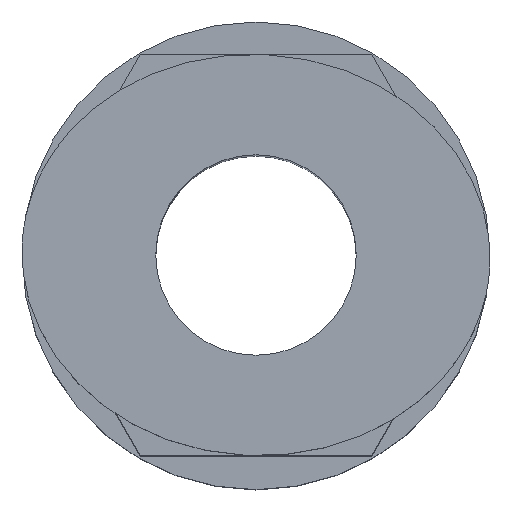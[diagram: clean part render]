
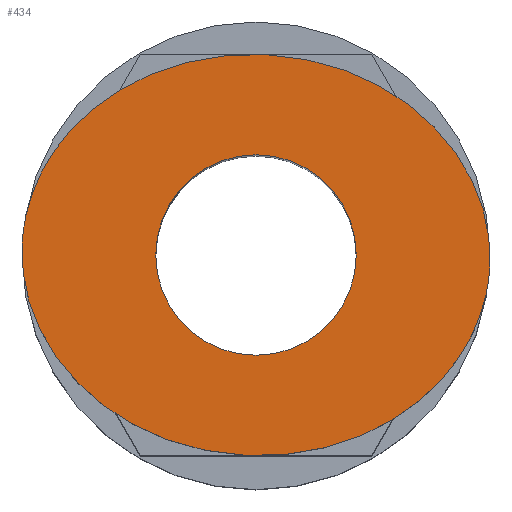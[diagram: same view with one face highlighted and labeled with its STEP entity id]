
A CAD part, top view. The second image highlights one B-rep face of the part: STEP entity #434.
In plain terms, the highlighted planar face has unit normal (0, 0, 1).
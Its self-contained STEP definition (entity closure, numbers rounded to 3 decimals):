
#4 = ORIENTED_EDGE ( 'NONE', *, *, #396, .T. ) ;
#13 = AXIS2_PLACEMENT_3D ( 'NONE', #823, #130, #408 ) ;
#69 = CARTESIAN_POINT ( 'NONE',  ( -7., 0.326, 24.5 ) ) ;
#83 = CARTESIAN_POINT ( 'NONE',  ( -7., 0.326, 24.5 ) ) ;
#88 = CARTESIAN_POINT ( 'NONE',  ( 0., 0., 24.5 ) ) ;
#103 = ORIENTED_EDGE ( 'NONE', *, *, #590, .T. ) ;
#111 = CARTESIAN_POINT ( 'NONE',  ( 7., -0.326, 24.5 ) ) ;
#130 = DIRECTION ( 'NONE',  ( 0., 0., 1. ) ) ;
#155 = FACE_BOUND ( 'NONE', #533, .T. ) ;
#168 = CARTESIAN_POINT ( 'NONE',  ( -7., 0.326, 24.5 ) ) ;
#170 = DIRECTION ( 'NONE',  ( -1., 0., 0. ) ) ;
#175 = DIRECTION ( 'NONE',  ( 0., 0., -1. ) ) ;
#223 = CARTESIAN_POINT ( 'NONE',  ( 6.441, -12.326, 24.5 ) ) ;
#236 = EDGE_CURVE ( 'NONE', #767, #238, #840, .T. ) ;
#238 = VERTEX_POINT ( 'NONE', #733 ) ;
#243 = CIRCLE ( 'NONE', #857, 3. ) ;
#352 =( BOUNDED_CURVE ( )  B_SPLINE_CURVE ( 3, ( #430, #807, #672, #168 ),
 .UNSPECIFIED., .F., .F. ) 
 B_SPLINE_CURVE_WITH_KNOTS ( ( 4, 4 ),
 ( 0., 3.142 ),
 .UNSPECIFIED. ) 
 CURVE ( )  GEOMETRIC_REPRESENTATION_ITEM ( )  RATIONAL_B_SPLINE_CURVE ( ( 1., 0.333, 0.333, 1. ) ) 
 REPRESENTATION_ITEM ( '' )  );
#396 = EDGE_CURVE ( 'NONE', #452, #790, #352, .T. ) ;
#408 = DIRECTION ( 'NONE',  ( 1., 0., 0. ) ) ;
#414 =( BOUNDED_CURVE ( )  B_SPLINE_CURVE ( 3, ( #69, #498, #223, #708 ),
 .UNSPECIFIED., .F., .F. ) 
 B_SPLINE_CURVE_WITH_KNOTS ( ( 4, 4 ),
 ( 3.142, 6.283 ),
 .UNSPECIFIED. ) 
 CURVE ( )  GEOMETRIC_REPRESENTATION_ITEM ( )  RATIONAL_B_SPLINE_CURVE ( ( 1., 0.333, 0.333, 1. ) ) 
 REPRESENTATION_ITEM ( '' )  );
#430 = CARTESIAN_POINT ( 'NONE',  ( 7., -0.326, 24.5 ) ) ;
#434 = ADVANCED_FACE ( 'NONE', ( #155, #874 ), #481, .T. ) ;
#438 = ORIENTED_EDGE ( 'NONE', *, *, #817, .T. ) ;
#452 = VERTEX_POINT ( 'NONE', #111 ) ;
#481 = PLANE ( 'NONE',  #13 ) ;
#497 = AXIS2_PLACEMENT_3D ( 'NONE', #661, #175, #600 ) ;
#498 = CARTESIAN_POINT ( 'NONE',  ( -7.559, -11.674, 24.5 ) ) ;
#507 = CARTESIAN_POINT ( 'NONE',  ( 3., 0., 24.5 ) ) ;
#533 = EDGE_LOOP ( 'NONE', ( #438, #674 ) ) ;
#590 = EDGE_CURVE ( 'NONE', #790, #452, #414, .T. ) ;
#593 = DIRECTION ( 'NONE',  ( 0., 0., -1. ) ) ;
#600 = DIRECTION ( 'NONE',  ( -1., 0., 0. ) ) ;
#653 = EDGE_LOOP ( 'NONE', ( #4, #103 ) ) ;
#661 = CARTESIAN_POINT ( 'NONE',  ( 0., 0., 24.5 ) ) ;
#672 = CARTESIAN_POINT ( 'NONE',  ( -6.441, 12.326, 24.5 ) ) ;
#674 = ORIENTED_EDGE ( 'NONE', *, *, #236, .T. ) ;
#708 = CARTESIAN_POINT ( 'NONE',  ( 7., -0.326, 24.5 ) ) ;
#733 = CARTESIAN_POINT ( 'NONE',  ( -3., 0., 24.5 ) ) ;
#767 = VERTEX_POINT ( 'NONE', #507 ) ;
#790 = VERTEX_POINT ( 'NONE', #83 ) ;
#807 = CARTESIAN_POINT ( 'NONE',  ( 7.559, 11.674, 24.5 ) ) ;
#817 = EDGE_CURVE ( 'NONE', #238, #767, #243, .T. ) ;
#823 = CARTESIAN_POINT ( 'NONE',  ( 0., 0., 24.5 ) ) ;
#840 = CIRCLE ( 'NONE', #497, 3. ) ;
#857 = AXIS2_PLACEMENT_3D ( 'NONE', #88, #593, #170 ) ;
#874 = FACE_OUTER_BOUND ( 'NONE', #653, .T. ) ;
